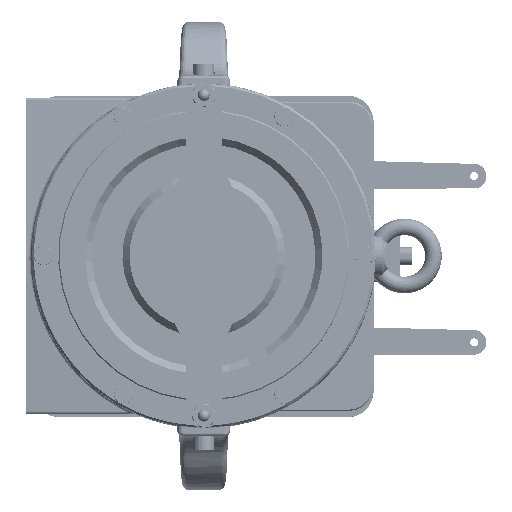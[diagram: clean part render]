
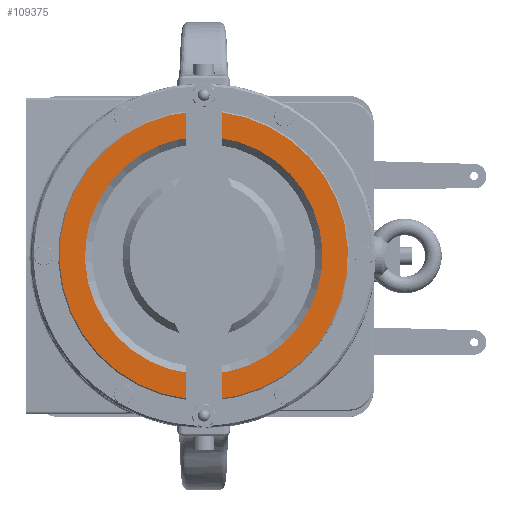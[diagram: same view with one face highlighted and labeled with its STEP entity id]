
A CAD part, top view. The second image highlights one B-rep face of the part: STEP entity #109375.
In plain terms, the highlighted planar face has unit normal (0, 0, 1).
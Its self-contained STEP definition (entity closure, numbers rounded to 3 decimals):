
#2293 = CARTESIAN_POINT ( 'NONE',  ( -13.594, 8.136, 271.5 ) ) ;
#2573 = EDGE_LOOP ( 'NONE', ( #78846, #98790 ) ) ;
#13607 = VERTEX_POINT ( 'NONE', #63734 ) ;
#13875 = CARTESIAN_POINT ( 'NONE',  ( -13.594, 8.136, 271.5 ) ) ;
#14646 = DIRECTION ( 'NONE',  ( 0., 0., 1. ) ) ;
#19061 = AXIS2_PLACEMENT_3D ( 'NONE', #2293, #136188, #28224 ) ;
#24840 = DIRECTION ( 'NONE',  ( 0., 0., -1. ) ) ;
#28224 = DIRECTION ( 'NONE',  ( -0.999, -0.054, 0. ) ) ;
#36652 = EDGE_CURVE ( 'NONE', #13607, #123814, #98751, .T. ) ;
#40210 = VERTEX_POINT ( 'NONE', #64650 ) ;
#55175 = CIRCLE ( 'NONE', #140694, 121.5 ) ;
#60046 = CARTESIAN_POINT ( 'NONE',  ( 107.731, 14.642, 271.5 ) ) ;
#63090 = AXIS2_PLACEMENT_3D ( 'NONE', #13875, #68230, #95912 ) ;
#63734 = CARTESIAN_POINT ( 'NONE',  ( -113.451, 2.781, 271.5 ) ) ;
#64650 = CARTESIAN_POINT ( 'NONE',  ( -134.92, 1.629, 271.5 ) ) ;
#68230 = DIRECTION ( 'NONE',  ( 0., 0., -1. ) ) ;
#68999 = DIRECTION ( 'NONE',  ( -0.999, -0.054, 0. ) ) ;
#72532 = PLANE ( 'NONE',  #79943 ) ;
#78846 = ORIENTED_EDGE ( 'NONE', *, *, #36652, .F. ) ;
#79233 = DIRECTION ( 'NONE',  ( 0.999, 0.054, 0. ) ) ;
#79943 = AXIS2_PLACEMENT_3D ( 'NONE', #152020, #14646, #68999 ) ;
#80558 = CIRCLE ( 'NONE', #63090, 121.5 ) ;
#82404 = FACE_BOUND ( 'NONE', #2573, .T. ) ;
#86066 = CARTESIAN_POINT ( 'NONE',  ( -13.594, 8.136, 271.5 ) ) ;
#86928 = DIRECTION ( 'NONE',  ( -0.999, -0.054, 0. ) ) ;
#90772 = EDGE_LOOP ( 'NONE', ( #132616, #168124 ) ) ;
#92488 = CARTESIAN_POINT ( 'NONE',  ( 86.262, 13.491, 271.5 ) ) ;
#95912 = DIRECTION ( 'NONE',  ( 0.999, 0.054, 0. ) ) ;
#97557 = FACE_OUTER_BOUND ( 'NONE', #90772, .T. ) ;
#98751 = CIRCLE ( 'NONE', #19061, 100. ) ;
#98790 = ORIENTED_EDGE ( 'NONE', *, *, #172184, .F. ) ;
#99321 = EDGE_CURVE ( 'NONE', #40210, #136173, #55175, .T. ) ;
#107766 = CARTESIAN_POINT ( 'NONE',  ( -13.594, 8.136, 271.5 ) ) ;
#109375 = ADVANCED_FACE ( 'NONE', ( #82404, #97557 ), #72532, .T. ) ;
#111743 = EDGE_CURVE ( 'NONE', #136173, #40210, #80558, .T. ) ;
#123814 = VERTEX_POINT ( 'NONE', #92488 ) ;
#132616 = ORIENTED_EDGE ( 'NONE', *, *, #111743, .F. ) ;
#136173 = VERTEX_POINT ( 'NONE', #60046 ) ;
#136188 = DIRECTION ( 'NONE',  ( 0., 0., 1. ) ) ;
#137838 = AXIS2_PLACEMENT_3D ( 'NONE', #86066, #153007, #86928 ) ;
#140660 = CIRCLE ( 'NONE', #137838, 100. ) ;
#140694 = AXIS2_PLACEMENT_3D ( 'NONE', #107766, #24840, #79233 ) ;
#152020 = CARTESIAN_POINT ( 'NONE',  ( -13.594, 8.136, 271.5 ) ) ;
#153007 = DIRECTION ( 'NONE',  ( 0., 0., 1. ) ) ;
#168124 = ORIENTED_EDGE ( 'NONE', *, *, #99321, .F. ) ;
#172184 = EDGE_CURVE ( 'NONE', #123814, #13607, #140660, .T. ) ;
